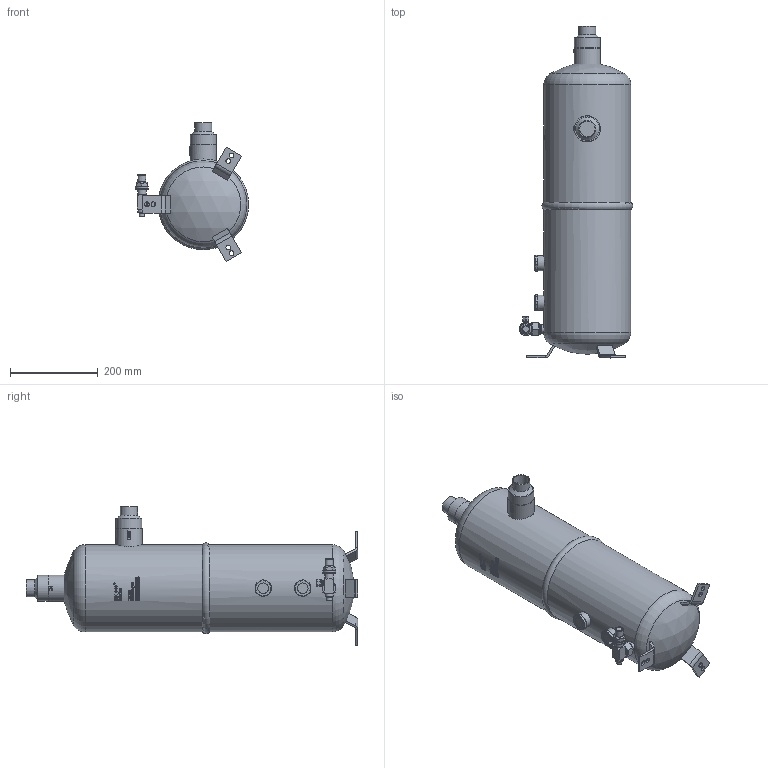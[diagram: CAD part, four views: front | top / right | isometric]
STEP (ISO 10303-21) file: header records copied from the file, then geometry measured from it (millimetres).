
FILE_DESCRIPTION(/* description */ (''),/* implementation_level */ '2;1');
FILE_NAME(/* name */ 'P:\OSR\OSR-7-54_35\OSR-7-54_35.stp',/* time_stamp */ '2015-10-27T15:30:15+01:00',/* author */ ('neufeld'),/* organization */ (''),/* preprocessor_version */ 'ST-DEVELOPER v15.2',/* originating_system */ 'Autodesk Inventor 2014',/* authorisation */ '');
FILE_SCHEMA (('AUTOMOTIVE_DESIGN { 1 0 10303 214 3 1 1 }'));
Length unit declared in the file: millimetre
Products named in the file (7): OSR-7-54_35-Rev.2_AG-Kunde; Körper für RAV-1-10-CD; Kappe1; Überwurfmutter 1Zoll; Kappe_DENA-LINE; RAV-1-10-CD
Bounding box: 258.02 x 755.22 x 315.94 mm (x, y, z)
Volume: 19882706 mm3; surface area: 520320.9 mm2
Topology: 8 solids, 8 shells, 1730 faces, 4585 edges, 3023 vertices
Faces by surface type: bspline 765, plane 627, cylinder 269, cone 59, torus 8, sphere 2
Full cylindrical faces by diameter (mm): 4 x1, 6.5 x1, 9 x2, 9.4 x1, 10.1 x1, 10.2 x1, 10.72 x1, 10.8 x6, 11 x1, 13 x1, 14 x1, 15 x1, 16.1 x1, 16.7 x1, 16.8 x1, 17 x1, 18 x1, 18.3 x1, 19 x1, 19.05 x1, 20 x3, 22.5 x2, 23 x1, 23.6 x2, 24.2 x2, 25.2 x1, 32.2 x1, 35 x2, 35.2 x2, 39 x2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
Entity records: 223891 total; most frequent: CARTESIAN_POINT 187226, ORIENTED_EDGE 8944, DIRECTION 4891, EDGE_CURVE 4460, VERTEX_POINT 2993, EDGE_LOOP 1991, B_SPLINE_CURVE_WITH_KNOTS 1947, LINE 1771
